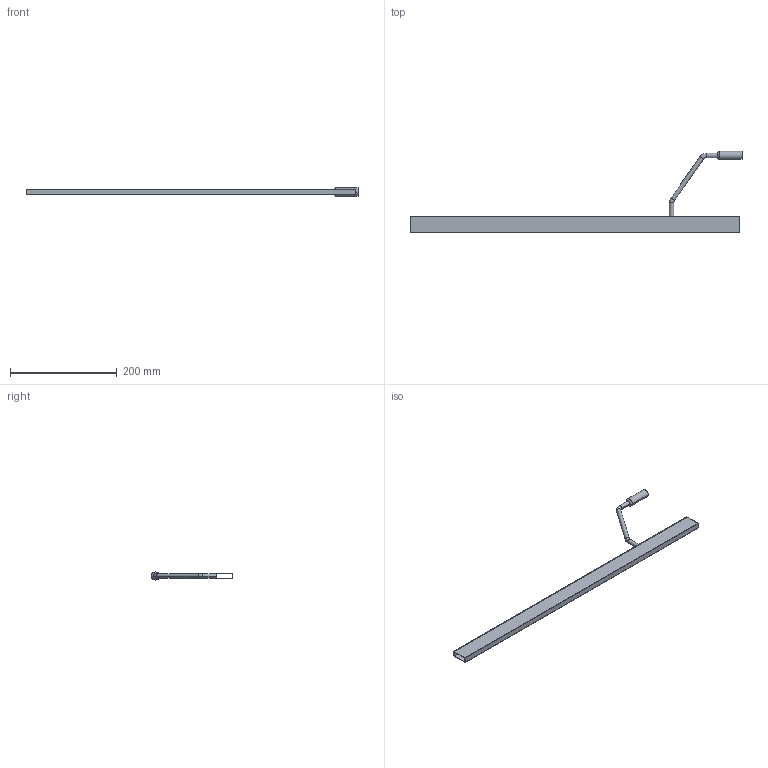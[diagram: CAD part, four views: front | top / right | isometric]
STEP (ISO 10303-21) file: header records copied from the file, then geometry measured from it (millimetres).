
FILE_DESCRIPTION (( 'STEP AP214' ), '1' );
FILE_NAME ('_DWD XP Rechteckreling mit Frontabstützung NL650.step', '2010-07-14T13:27:22', ( 'grass' ), ( '' ), 'SwSTEP 2.0', 'SolidWorks 2010', '' );
FILE_SCHEMA (( 'AUTOMOTIVE_DESIGN' ));
Length unit declared in the file: millimetre
Products named in the file (1): _DWD XP Rechteckreling mit Frontabstützung NL650
Bounding box: 621.6 x 151.9 x 15 mm (x, y, z)
Volume: 44992.7 mm3; surface area: 103410.6 mm2
Topology: 1 solids, 1 shells, 25 faces, 54 edges, 32 vertices
Faces by surface type: plane 11, cylinder 8, torus 6
Entity records: 712 total; most frequent: DIRECTION 128, CARTESIAN_POINT 112, ORIENTED_EDGE 108, EDGE_CURVE 54, AXIS2_PLACEMENT_3D 48, VERTEX_POINT 32, LINE 32, VECTOR 32
